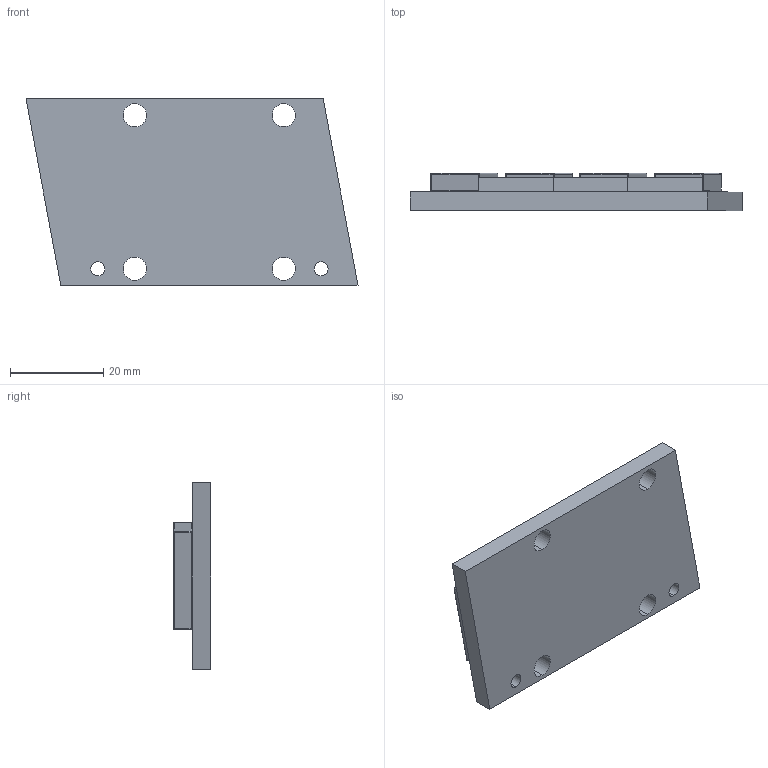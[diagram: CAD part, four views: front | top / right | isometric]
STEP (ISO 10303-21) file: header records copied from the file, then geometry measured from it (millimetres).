
FILE_DESCRIPTION (( 'STEP AP203' ), '1' );
FILE_NAME ('MP40-64 3D.STEP', '2021-03-25T10:25:15', ( '' ), ( '' ), 'SwSTEP 2.0', 'SolidWorks 2021', '' );
FILE_SCHEMA (( 'CONFIG_CONTROL_DESIGN' ));
Length unit declared in the file: millimetre
Products named in the file (1): MP40-64 3D
Bounding box: 71.33 x 8 x 40 mm (x, y, z)
Volume: 14763.2 mm3; surface area: 6819.5 mm2
Topology: 1 solids, 1 shells, 111 faces, 270 edges, 142 vertices
Faces by surface type: cylinder 50, plane 35, sphere 26
Entity records: 3141 total; most frequent: DIRECTION 578, CARTESIAN_POINT 516, ORIENTED_EDGE 500, EDGE_CURVE 250, AXIS2_PLACEMENT_3D 220, VERTEX_POINT 142, LINE 138, VECTOR 138
